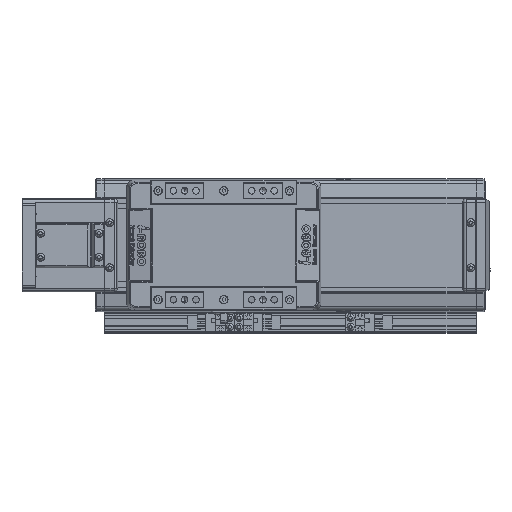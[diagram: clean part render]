
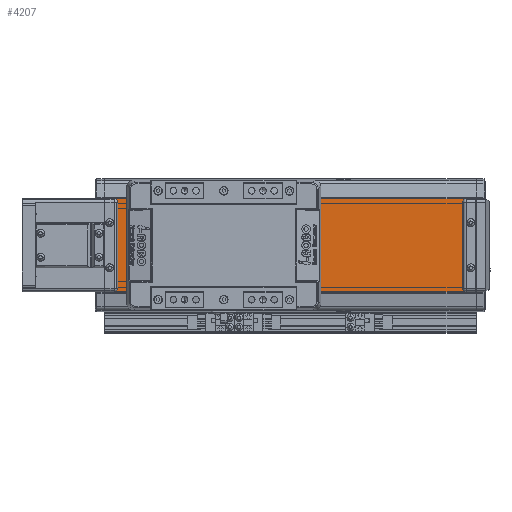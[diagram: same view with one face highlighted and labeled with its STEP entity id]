
A CAD part, top view. The second image highlights one B-rep face of the part: STEP entity #4207.
In plain terms, the highlighted planar face has unit normal (0, 0, 1).
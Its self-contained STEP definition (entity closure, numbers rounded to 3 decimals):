
#4207=ADVANCED_FACE('',(#10832),#10833,.T.);
#10832=FACE_OUTER_BOUND('',#20664,.T.);
#10833=PLANE('',#20665);
#20664=EDGE_LOOP('',(#32835,#32836,#32837,#32838));
#20665=AXIS2_PLACEMENT_3D('',#32839,#32840,#32841);
#32835=ORIENTED_EDGE('',*,*,#59163,.T.);
#32836=ORIENTED_EDGE('',*,*,#59164,.F.);
#32837=ORIENTED_EDGE('',*,*,#59165,.T.);
#32838=ORIENTED_EDGE('',*,*,#59166,.T.);
#32839=CARTESIAN_POINT('',(-580.,0.,20.15));
#32840=DIRECTION('',(0.,0.,1.0));
#32841=DIRECTION('',(0.,-1.0,0.));
#59163=EDGE_CURVE('',#71550,#71551,#71552,.T.);
#59164=EDGE_CURVE('',#71553,#71551,#71554,.T.);
#59165=EDGE_CURVE('',#71553,#71555,#71556,.T.);
#59166=EDGE_CURVE('',#71555,#71550,#71557,.T.);
#71550=VERTEX_POINT('',#88764);
#71551=VERTEX_POINT('',#88765);
#71552=LINE('',#88766,#88767);
#71553=VERTEX_POINT('',#88768);
#71554=LINE('',#88769,#88770);
#71555=VERTEX_POINT('',#88771);
#71556=LINE('',#88772,#88773);
#71557=LINE('',#88774,#88775);
#88764=CARTESIAN_POINT('',(-300.,-35.,20.15));
#88765=CARTESIAN_POINT('',(-300.,35.,20.15));
#88766=CARTESIAN_POINT('',(-300.,35.,20.15));
#88767=VECTOR('',#109118,10.0);
#88768=CARTESIAN_POINT('',(-580.,35.,20.15));
#88769=CARTESIAN_POINT('',(-580.,35.,20.15));
#88770=VECTOR('',#109119,10.0);
#88771=CARTESIAN_POINT('',(-580.,-35.,20.15));
#88772=CARTESIAN_POINT('',(-580.,35.,20.15));
#88773=VECTOR('',#109120,10.0);
#88774=CARTESIAN_POINT('',(-580.,-35.,20.15));
#88775=VECTOR('',#109121,10.0);
#109118=DIRECTION('',(0.,1.0,0.));
#109119=DIRECTION('',(1.0,0.,0.));
#109120=DIRECTION('',(0.,-1.0,0.));
#109121=DIRECTION('',(1.0,0.,0.));
